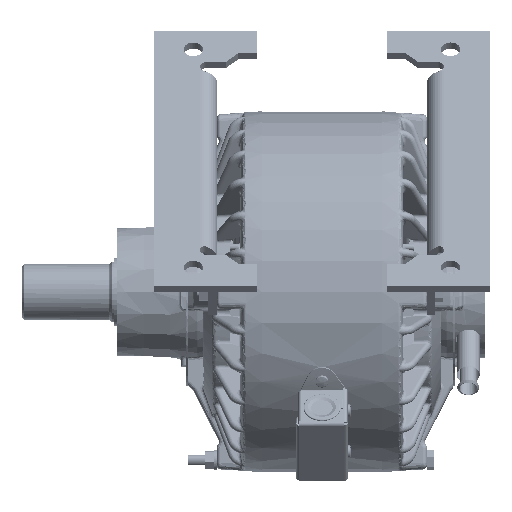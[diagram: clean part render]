
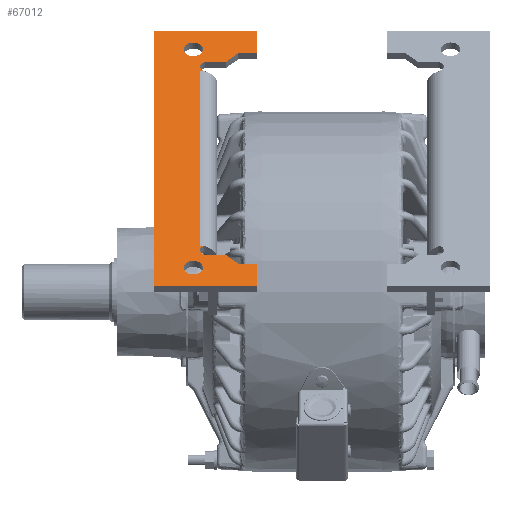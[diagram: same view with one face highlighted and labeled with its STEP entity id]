
A CAD part, left-side view. The second image highlights one B-rep face of the part: STEP entity #67012.
In plain terms, the highlighted planar face has unit normal (-0.707, 0, 0.707).
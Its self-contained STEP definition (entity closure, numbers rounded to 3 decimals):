
#2235=LINE('',#98039,#5078);
#2236=LINE('',#98044,#5079);
#2237=LINE('',#98046,#5080);
#2238=LINE('',#98048,#5081);
#2239=LINE('',#98050,#5082);
#2240=LINE('',#98052,#5083);
#2241=LINE('',#98053,#5084);
#2242=LINE('',#98055,#5085);
#2243=LINE('',#98056,#5086);
#2244=LINE('',#98058,#5087);
#2245=LINE('',#98060,#5088);
#2246=LINE('',#98062,#5089);
#2247=LINE('',#98064,#5090);
#2248=LINE('',#98065,#5091);
#5078=VECTOR('',#79522,39.37);
#5079=VECTOR('',#79527,39.37);
#5080=VECTOR('',#79528,39.37);
#5081=VECTOR('',#79529,39.37);
#5082=VECTOR('',#79530,39.37);
#5083=VECTOR('',#79531,39.37);
#5084=VECTOR('',#79532,39.37);
#5085=VECTOR('',#79533,39.37);
#5086=VECTOR('',#79534,39.37);
#5087=VECTOR('',#79535,39.37);
#5088=VECTOR('',#79536,39.37);
#5089=VECTOR('',#79537,39.37);
#5090=VECTOR('',#79538,39.37);
#5091=VECTOR('',#79539,39.37);
#13033=FACE_BOUND('',#17724,.T.);
#13034=FACE_BOUND('',#17725,.T.);
#13246=FACE_OUTER_BOUND('',#17723,.T.);
#17723=EDGE_LOOP('',(#44676,#44677,#44678,#44679,#44680,#44681,#44682,#44683,
#44684,#44685,#44686,#44687,#44688,#44689,#44690,#44691));
#17724=EDGE_LOOP('',(#44692));
#17725=EDGE_LOOP('',(#44693));
#22324=CIRCLE('',#71612,0.281);
#22326=CIRCLE('',#71615,0.18);
#22329=CIRCLE('',#71620,0.281);
#22331=CIRCLE('',#71623,0.18);
#26933=VERTEX_POINT('',#97998);
#26935=VERTEX_POINT('',#98004);
#26936=VERTEX_POINT('',#98005);
#26942=VERTEX_POINT('',#98021);
#26944=VERTEX_POINT('',#98027);
#26945=VERTEX_POINT('',#98028);
#26949=VERTEX_POINT('',#98038);
#26950=VERTEX_POINT('',#98042);
#26951=VERTEX_POINT('',#98043);
#26952=VERTEX_POINT('',#98045);
#26953=VERTEX_POINT('',#98047);
#26954=VERTEX_POINT('',#98049);
#26955=VERTEX_POINT('',#98051);
#26956=VERTEX_POINT('',#98054);
#26957=VERTEX_POINT('',#98057);
#26958=VERTEX_POINT('',#98059);
#26959=VERTEX_POINT('',#98061);
#26960=VERTEX_POINT('',#98063);
#33493=EDGE_CURVE('',#26933,#26933,#22324,.T.);
#33496=EDGE_CURVE('',#26935,#26936,#22326,.T.);
#33504=EDGE_CURVE('',#26942,#26942,#22329,.T.);
#33507=EDGE_CURVE('',#26944,#26945,#22331,.T.);
#33512=EDGE_CURVE('',#26949,#26945,#2235,.T.);
#33514=EDGE_CURVE('',#26950,#26951,#2236,.T.);
#33515=EDGE_CURVE('',#26950,#26952,#2237,.T.);
#33516=EDGE_CURVE('',#26952,#26953,#2238,.T.);
#33517=EDGE_CURVE('',#26953,#26954,#2239,.T.);
#33518=EDGE_CURVE('',#26954,#26955,#2240,.T.);
#33519=EDGE_CURVE('',#26955,#26935,#2241,.T.);
#33520=EDGE_CURVE('',#26956,#26936,#2242,.T.);
#33521=EDGE_CURVE('',#26956,#26949,#2243,.T.);
#33522=EDGE_CURVE('',#26957,#26944,#2244,.T.);
#33523=EDGE_CURVE('',#26958,#26957,#2245,.T.);
#33524=EDGE_CURVE('',#26959,#26958,#2246,.T.);
#33525=EDGE_CURVE('',#26960,#26959,#2247,.T.);
#33526=EDGE_CURVE('',#26951,#26960,#2248,.T.);
#44676=ORIENTED_EDGE('',*,*,#33514,.F.);
#44677=ORIENTED_EDGE('',*,*,#33515,.T.);
#44678=ORIENTED_EDGE('',*,*,#33516,.T.);
#44679=ORIENTED_EDGE('',*,*,#33517,.T.);
#44680=ORIENTED_EDGE('',*,*,#33518,.T.);
#44681=ORIENTED_EDGE('',*,*,#33519,.T.);
#44682=ORIENTED_EDGE('',*,*,#33496,.T.);
#44683=ORIENTED_EDGE('',*,*,#33520,.F.);
#44684=ORIENTED_EDGE('',*,*,#33521,.T.);
#44685=ORIENTED_EDGE('',*,*,#33512,.T.);
#44686=ORIENTED_EDGE('',*,*,#33507,.F.);
#44687=ORIENTED_EDGE('',*,*,#33522,.F.);
#44688=ORIENTED_EDGE('',*,*,#33523,.F.);
#44689=ORIENTED_EDGE('',*,*,#33524,.F.);
#44690=ORIENTED_EDGE('',*,*,#33525,.F.);
#44691=ORIENTED_EDGE('',*,*,#33526,.F.);
#44692=ORIENTED_EDGE('',*,*,#33493,.F.);
#44693=ORIENTED_EDGE('',*,*,#33504,.T.);
#66080=PLANE('',#71627);
#67012=ADVANCED_FACE('',(#13246,#13033,#13034),#66080,.T.);
#71612=AXIS2_PLACEMENT_3D('',#97999,#79484,#79485);
#71615=AXIS2_PLACEMENT_3D('',#98006,#79491,#79492);
#71620=AXIS2_PLACEMENT_3D('',#98022,#79506,#79507);
#71623=AXIS2_PLACEMENT_3D('',#98029,#79513,#79514);
#71627=AXIS2_PLACEMENT_3D('',#98041,#79525,#79526);
#79484=DIRECTION('center_axis',(-0.707,0.,
0.707));
#79485=DIRECTION('ref_axis',(0.,1.,0.));
#79491=DIRECTION('center_axis',(0.707,0.,
-0.707));
#79492=DIRECTION('ref_axis',(0.,-1.,0.));
#79506=DIRECTION('center_axis',(0.707,0.,
-0.707));
#79507=DIRECTION('ref_axis',(0.,1.,0.));
#79513=DIRECTION('center_axis',(-0.707,0.,
0.707));
#79514=DIRECTION('ref_axis',(0.,-1.,0.));
#79522=DIRECTION('',(0.,-1.,0.));
#79525=DIRECTION('center_axis',(-0.707,0.,
0.707));
#79526=DIRECTION('ref_axis',(0.,-1.,0.));
#79527=DIRECTION('',(0.707,0.,0.707));
#79528=DIRECTION('',(0.,-1.,0.));
#79529=DIRECTION('',(0.707,0.,0.707));
#79530=DIRECTION('',(0.,1.,0.));
#79531=DIRECTION('',(0.5,0.707,0.5));
#79532=DIRECTION('',(0.,1.,0.));
#79533=DIRECTION('',(0.,-1.,0.));
#79534=DIRECTION('',(0.707,0.,0.707));
#79535=DIRECTION('',(0.,1.,0.));
#79536=DIRECTION('',(-0.5,0.707,-0.5));
#79537=DIRECTION('',(0.,1.,0.));
#79538=DIRECTION('',(-0.707,0.,-0.707));
#79539=DIRECTION('',(0.,-1.,0.));
#97998=CARTESIAN_POINT('',(-7.071,5.219,0.706));
#97999=CARTESIAN_POINT('Origin',(-7.071,5.5,0.706));
#98004=CARTESIAN_POINT('',(-6.696,5.13,1.081));
#98005=CARTESIAN_POINT('',(-6.442,5.13,1.335));
#98006=CARTESIAN_POINT('Origin',(-6.569,5.13,1.208));
#98021=CARTESIAN_POINT('',(-0.707,5.219,7.07));
#98022=CARTESIAN_POINT('Origin',(-0.707,5.5,7.07));
#98027=CARTESIAN_POINT('',(-1.082,5.13,6.695));
#98028=CARTESIAN_POINT('',(-1.336,5.13,6.44));
#98029=CARTESIAN_POINT('Origin',(-1.209,5.13,6.568));
#98038=CARTESIAN_POINT('',(-1.336,5.31,6.44));
#98039=CARTESIAN_POINT('',(-1.336,5.13,6.44));
#98041=CARTESIAN_POINT('Origin',(-1.209,5.13,6.568));
#98042=CARTESIAN_POINT('',(-7.601,6.65,0.175));
#98043=CARTESIAN_POINT('',(-0.177,6.65,7.6));
#98044=CARTESIAN_POINT('',(-3.889,6.65,3.888));
#98045=CARTESIAN_POINT('',(-7.601,3.65,0.175));
#98046=CARTESIAN_POINT('',(-7.601,6.65,0.175));
#98047=CARTESIAN_POINT('',(-6.961,3.65,0.815));
#98048=CARTESIAN_POINT('',(-7.601,3.65,0.175));
#98049=CARTESIAN_POINT('',(-6.961,4.185,0.815));
#98050=CARTESIAN_POINT('',(-6.961,3.65,0.815));
#98051=CARTESIAN_POINT('',(-6.696,4.56,1.081));
#98052=CARTESIAN_POINT('',(-6.961,4.185,0.815));
#98053=CARTESIAN_POINT('',(-6.696,4.56,1.081));
#98054=CARTESIAN_POINT('',(-6.442,5.31,1.335));
#98055=CARTESIAN_POINT('',(-6.442,5.13,1.335));
#98056=CARTESIAN_POINT('',(-3.889,5.31,3.888));
#98057=CARTESIAN_POINT('',(-1.082,4.56,6.695));
#98058=CARTESIAN_POINT('',(-1.082,4.56,6.695));
#98059=CARTESIAN_POINT('',(-0.817,4.185,6.96));
#98060=CARTESIAN_POINT('',(-0.817,4.185,6.96));
#98061=CARTESIAN_POINT('',(-0.817,3.65,6.96));
#98062=CARTESIAN_POINT('',(-0.817,3.65,6.96));
#98063=CARTESIAN_POINT('',(-0.177,3.65,7.6));
#98064=CARTESIAN_POINT('',(-0.177,3.65,7.6));
#98065=CARTESIAN_POINT('',(-0.177,6.65,7.6));
